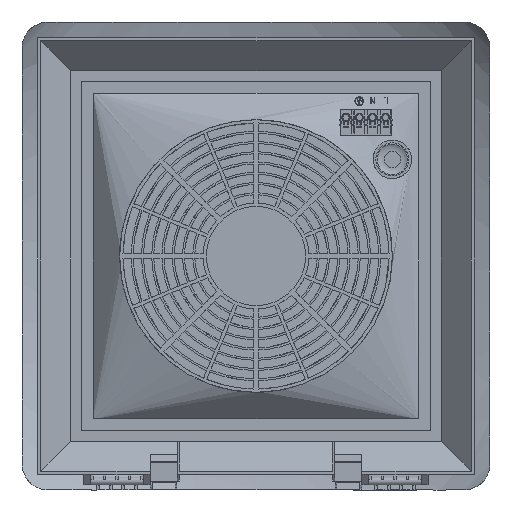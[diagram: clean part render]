
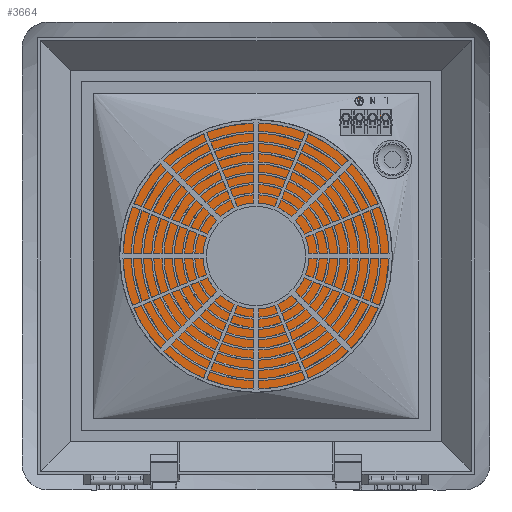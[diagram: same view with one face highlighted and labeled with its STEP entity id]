
A CAD part, front view. The second image highlights one B-rep face of the part: STEP entity #3664.
In plain terms, the highlighted planar face has unit normal (0, -1, 0).
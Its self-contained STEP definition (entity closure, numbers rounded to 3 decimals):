
#300 = EDGE_CURVE ( 'NONE', #17480, #36552, #1558, .T. ) ;
#1411 = CARTESIAN_POINT ( 'NONE',  ( 296.777, 2., 56.78 ) ) ;
#1558 = CIRCLE ( 'NONE', #10141, 0.5 ) ;
#2249 = VERTEX_POINT ( 'NONE', #50847 ) ;
#2523 = DIRECTION ( 'NONE',  ( 0., -1., 0. ) ) ;
#2609 = VECTOR ( 'NONE', #14023, 1000. ) ;
#3664 = ADVANCED_FACE ( 'NONE', ( #5341 ), #12719, .F. ) ;
#4164 = AXIS2_PLACEMENT_3D ( 'NONE', #12129, #12067, #12020 ) ;
#5341 = FACE_OUTER_BOUND ( 'NONE', #32202, .T. ) ;
#5741 = DIRECTION ( 'NONE',  ( 0., 0., 1. ) ) ;
#7122 = LINE ( 'NONE', #21006, #29812 ) ;
#7238 = ORIENTED_EDGE ( 'NONE', *, *, #44602, .T. ) ;
#8463 = ORIENTED_EDGE ( 'NONE', *, *, #52363, .T. ) ;
#9991 = DIRECTION ( 'NONE',  ( 0., -1., 0. ) ) ;
#10141 = AXIS2_PLACEMENT_3D ( 'NONE', #34666, #39078, #27105 ) ;
#12020 = DIRECTION ( 'NONE',  ( 0., 0., 1. ) ) ;
#12067 = DIRECTION ( 'NONE',  ( 0., 1., 0. ) ) ;
#12129 = CARTESIAN_POINT ( 'NONE',  ( 38.277, 2., 315.28 ) ) ;
#12160 = CIRCLE ( 'NONE', #16028, 0.5 ) ;
#12719 = PLANE ( 'NONE',  #4164 ) ;
#12863 = CARTESIAN_POINT ( 'NONE',  ( 297.277, 2., 296.78 ) ) ;
#14023 = DIRECTION ( 'NONE',  ( 0., 0., 1. ) ) ;
#16028 = AXIS2_PLACEMENT_3D ( 'NONE', #1411, #31317, #5741 ) ;
#16945 = CIRCLE ( 'NONE', #28727, 0.5 ) ;
#17314 = VERTEX_POINT ( 'NONE', #23881 ) ;
#17480 = VERTEX_POINT ( 'NONE', #29553 ) ;
#19803 = DIRECTION ( 'NONE',  ( 1., 0., 0. ) ) ;
#20503 = EDGE_CURVE ( 'NONE', #42888, #17314, #40717, .T. ) ;
#20623 = AXIS2_PLACEMENT_3D ( 'NONE', #28136, #2523, #32356 ) ;
#20705 = CARTESIAN_POINT ( 'NONE',  ( 56.277, 2., 297.28 ) ) ;
#21006 = CARTESIAN_POINT ( 'NONE',  ( 56.277, 2., 297.28 ) ) ;
#23826 = CARTESIAN_POINT ( 'NONE',  ( 56.277, 2., 296.78 ) ) ;
#23881 = CARTESIAN_POINT ( 'NONE',  ( 56.777, 2., 56.28 ) ) ;
#25544 = VECTOR ( 'NONE', #29190, 1000. ) ;
#26621 = CARTESIAN_POINT ( 'NONE',  ( 296.777, 2., 56.28 ) ) ;
#27105 = DIRECTION ( 'NONE',  ( 0., 0., 1. ) ) ;
#28136 = CARTESIAN_POINT ( 'NONE',  ( 56.777, 2., 56.78 ) ) ;
#28727 = AXIS2_PLACEMENT_3D ( 'NONE', #35375, #9991, #39609 ) ;
#29190 = DIRECTION ( 'NONE',  ( 0., 0., -1. ) ) ;
#29374 = EDGE_CURVE ( 'NONE', #2249, #17480, #7122, .T. ) ;
#29553 = CARTESIAN_POINT ( 'NONE',  ( 56.777, 2., 297.28 ) ) ;
#29812 = VECTOR ( 'NONE', #50523, 1000. ) ;
#30633 = CARTESIAN_POINT ( 'NONE',  ( 56.277, 2., 56.78 ) ) ;
#30757 = EDGE_CURVE ( 'NONE', #48897, #2249, #16945, .T. ) ;
#31317 = DIRECTION ( 'NONE',  ( 0., -1., 0. ) ) ;
#32202 = EDGE_LOOP ( 'NONE', ( #8463, #50513, #7238, #55176, #33097, #42728, #37062, #49658 ) ) ;
#32356 = DIRECTION ( 'NONE',  ( 0., 0., 1. ) ) ;
#32549 = VERTEX_POINT ( 'NONE', #37755 ) ;
#33097 = ORIENTED_EDGE ( 'NONE', *, *, #29374, .T. ) ;
#34666 = CARTESIAN_POINT ( 'NONE',  ( 56.777, 2., 296.78 ) ) ;
#35375 = CARTESIAN_POINT ( 'NONE',  ( 296.777, 2., 296.78 ) ) ;
#36552 = VERTEX_POINT ( 'NONE', #23826 ) ;
#36717 = LINE ( 'NONE', #20705, #25544 ) ;
#37062 = ORIENTED_EDGE ( 'NONE', *, *, #43736, .T. ) ;
#37755 = CARTESIAN_POINT ( 'NONE',  ( 297.277, 2., 56.78 ) ) ;
#39078 = DIRECTION ( 'NONE',  ( 0., -1., 0. ) ) ;
#39194 = CARTESIAN_POINT ( 'NONE',  ( 297.277, 2., 297.28 ) ) ;
#39609 = DIRECTION ( 'NONE',  ( 0., 0., 1. ) ) ;
#40717 = CIRCLE ( 'NONE', #20623, 0.5 ) ;
#40785 = CARTESIAN_POINT ( 'NONE',  ( 56.277, 2., 56.28 ) ) ;
#40808 = VECTOR ( 'NONE', #19803, 1000. ) ;
#42728 = ORIENTED_EDGE ( 'NONE', *, *, #300, .T. ) ;
#42888 = VERTEX_POINT ( 'NONE', #30633 ) ;
#43411 = VERTEX_POINT ( 'NONE', #26621 ) ;
#43736 = EDGE_CURVE ( 'NONE', #36552, #42888, #36717, .T. ) ;
#44602 = EDGE_CURVE ( 'NONE', #32549, #48897, #46457, .T. ) ;
#46457 = LINE ( 'NONE', #39194, #2609 ) ;
#48072 = EDGE_CURVE ( 'NONE', #43411, #32549, #12160, .T. ) ;
#48897 = VERTEX_POINT ( 'NONE', #12863 ) ;
#49658 = ORIENTED_EDGE ( 'NONE', *, *, #20503, .T. ) ;
#50513 = ORIENTED_EDGE ( 'NONE', *, *, #48072, .T. ) ;
#50523 = DIRECTION ( 'NONE',  ( -1., 0., 0. ) ) ;
#50847 = CARTESIAN_POINT ( 'NONE',  ( 296.777, 2., 297.28 ) ) ;
#52363 = EDGE_CURVE ( 'NONE', #17314, #43411, #53475, .T. ) ;
#53475 = LINE ( 'NONE', #40785, #40808 ) ;
#55176 = ORIENTED_EDGE ( 'NONE', *, *, #30757, .T. ) ;
